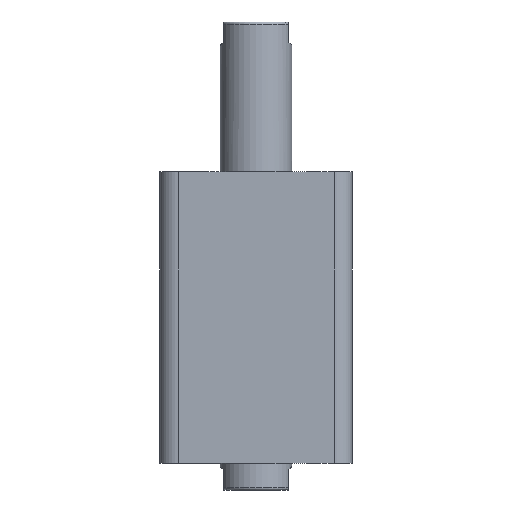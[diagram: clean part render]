
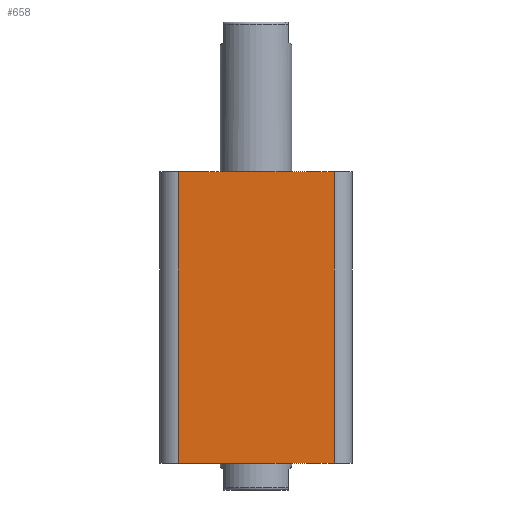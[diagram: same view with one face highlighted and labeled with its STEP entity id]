
A CAD part, front view. The second image highlights one B-rep face of the part: STEP entity #658.
In plain terms, the highlighted planar face has unit normal (0, -1, 0).
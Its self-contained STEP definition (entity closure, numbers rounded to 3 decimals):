
#5 = CARTESIAN_POINT ( 'NONE',  ( -47., -47., 142. ) ) ;
#12 = DIRECTION ( 'NONE',  ( 0., 0., 1. ) ) ;
#24 = PLANE ( 'NONE',  #2215 ) ;
#28 = DIRECTION ( 'NONE',  ( 0., 1., 0. ) ) ;
#257 = CARTESIAN_POINT ( 'NONE',  ( -38., -47., 0. ) ) ;
#264 = CARTESIAN_POINT ( 'NONE',  ( 38., -47., 142. ) ) ;
#265 = CARTESIAN_POINT ( 'NONE',  ( 38., -47., 0. ) ) ;
#344 = DIRECTION ( 'NONE',  ( 0., 0., -1. ) ) ;
#373 = CARTESIAN_POINT ( 'NONE',  ( -38., -47., 142. ) ) ;
#442 = DIRECTION ( 'NONE',  ( 0., 0., 1. ) ) ;
#446 = CARTESIAN_POINT ( 'NONE',  ( 38., -47., 142. ) ) ;
#534 = DIRECTION ( 'NONE',  ( 1., 0., 0. ) ) ;
#539 = CARTESIAN_POINT ( 'NONE',  ( -47., -47., 0. ) ) ;
#554 = CARTESIAN_POINT ( 'NONE',  ( -47., -47., 142. ) ) ;
#555 = DIRECTION ( 'NONE',  ( 1., 0., 0. ) ) ;
#658 = ADVANCED_FACE ( 'NONE', ( #1768 ), #24, .F. ) ;
#864 = VERTEX_POINT ( 'NONE', #264 ) ;
#865 = VERTEX_POINT ( 'NONE', #257 ) ;
#866 = VERTEX_POINT ( 'NONE', #265 ) ;
#1006 = EDGE_LOOP ( 'NONE', ( #3078, #3079, #3080, #3081 ) ) ;
#1240 = CARTESIAN_POINT ( 'NONE',  ( -38., -47., 142. ) ) ;
#1273 = EDGE_CURVE ( 'NONE', #2870, #865, #1878, .T. ) ;
#1308 = EDGE_CURVE ( 'NONE', #866, #864, #1910, .T. ) ;
#1342 = EDGE_CURVE ( 'NONE', #865, #866, #1949, .T. ) ;
#1347 = EDGE_CURVE ( 'NONE', #2870, #864, #1962, .T. ) ;
#1768 = FACE_OUTER_BOUND ( 'NONE', #1006, .T. ) ;
#1878 = LINE ( 'NONE', #373, #1881 ) ;
#1881 = VECTOR ( 'NONE', #344, 1000. ) ;
#1910 = LINE ( 'NONE', #446, #1914 ) ;
#1914 = VECTOR ( 'NONE', #442, 1000. ) ;
#1949 = LINE ( 'NONE', #539, #1958 ) ;
#1958 = VECTOR ( 'NONE', #534, 1000. ) ;
#1962 = LINE ( 'NONE', #554, #1965 ) ;
#1965 = VECTOR ( 'NONE', #555, 1000. ) ;
#2215 = AXIS2_PLACEMENT_3D ( 'NONE', #5, #28, #12 ) ;
#2870 = VERTEX_POINT ( 'NONE', #1240 ) ;
#3078 = ORIENTED_EDGE ( 'NONE', *, *, #1347, .F. ) ;
#3079 = ORIENTED_EDGE ( 'NONE', *, *, #1273, .T. ) ;
#3080 = ORIENTED_EDGE ( 'NONE', *, *, #1342, .T. ) ;
#3081 = ORIENTED_EDGE ( 'NONE', *, *, #1308, .T. ) ;
